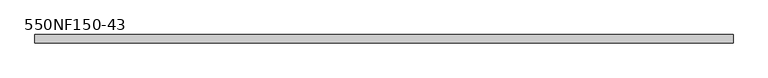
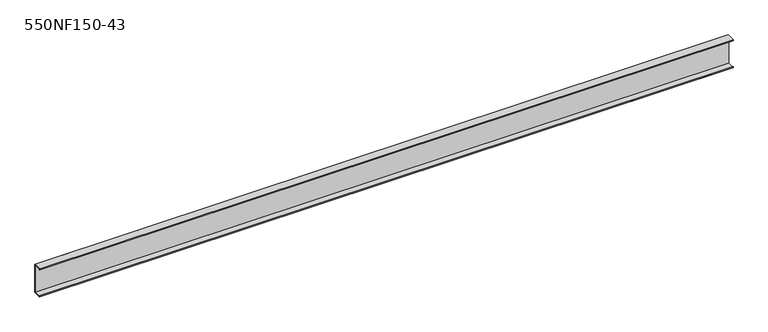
"""IFC4 building model written with IfcOpenShell, lengths in millimetres: beam geometry, BIMSF-SSMA-S : 550NF150-43."""

import ifcopenshell
import ifcopenshell.guid

model = None  # the IFC model being written
_history = None  # IfcOwnerHistory: only IFC2X3 demands one
_inside = {}  # id of a spatial element -> (the spatial element, [elements in it])
_under = {}  # id of a project, library or spatial element -> (it, [spatial elements below it])
_declared = {}  # id of a project -> (the project, [libraries it declares])
_typed = {}  # id of a type object -> (the type object, [elements of that type])
_made_of = {}  # id of a material, layer set ... -> (it, [elements and type objects made of it])


def new_model(schema):
    """Start an empty IFC model of exactly this schema.

    Asked for "IFC4X3", IfcOpenShell would pick the latest addendum, in which some entities
    have other attributes; the version numbers below select the first issue.
    IFC2X3 requires an IfcOwnerHistory on every rooted entity: one is made here for all.
    """
    global model, _history
    if schema == "IFC4X3":
        model = ifcopenshell.file(schema_version=(4, 3, 0, 0))
    else:
        model = ifcopenshell.file(schema=schema)
    _inside.clear()
    _under.clear()
    _declared.clear()
    _typed.clear()
    _made_of.clear()
    _history = None
    if model.schema == "IFC2X3":
        org = make("IfcOrganization", Name="unknown")
        user = make(
            "IfcPersonAndOrganization",
            ThePerson=make("IfcPerson", FamilyName="unknown"),
            TheOrganization=org,
        )
        app = make(
            "IfcApplication",
            ApplicationDeveloper=org,
            Version="unknown",
            ApplicationFullName="unknown",
            ApplicationIdentifier="unknown",
        )
        _history = make(
            "IfcOwnerHistory",
            OwningUser=user,
            OwningApplication=app,
            ChangeAction="ADDED",
            CreationDate=0,
        )
    return model


def make(cls, **values):
    """One entity of the class cls with the attributes given. An attribute that is None is left unset."""
    return model.create_entity(
        cls, **{name: value for name, value in values.items() if value is not None}
    )


def rooted(cls, **values):
    """An entity with a GlobalId (a new one), such as an element, a storey or a relation."""
    return make(cls, GlobalId=ifcopenshell.guid.new(), OwnerHistory=_history, **values)


def si_unit(unit_type, name, prefix=None):
    """IfcSIUnit, for example si_unit("LENGTHUNIT", "METRE", prefix="MILLI")."""
    return make("IfcSIUnit", UnitType=unit_type, Prefix=prefix, Name=name)


def assignment(units):
    """IfcUnitAssignment: the units of a project."""
    return None if units is None else make("IfcUnitAssignment", Units=units)


def point(xyz):
    """IfcCartesianPoint."""
    return None if xyz is None else make("IfcCartesianPoint", Coordinates=xyz)


def direction(xyz):
    """IfcDirection."""
    return None if xyz is None else make("IfcDirection", DirectionRatios=xyz)


def frame(location, z_axis=None, x_axis=None):
    """IfcAxis2Placement3D, a coordinate frame: its origin and axes. An axis left out is left unset."""
    return make(
        "IfcAxis2Placement3D",
        Location=point(location),
        Axis=direction(z_axis),
        RefDirection=direction(x_axis),
    )


def origin():
    """The frame at (0, 0, 0) with its axes left unset."""
    return frame((0.0, 0.0, 0.0))


def place(relative_to, where):
    """IfcLocalPlacement: puts the frame where relative to a parent placement (None: the world)."""
    return make(
        "IfcLocalPlacement", PlacementRelTo=relative_to, RelativePlacement=where
    )


def context(
    kind, dimensions, precision=None, world=None, true_north=None, identifier=None
):
    """IfcGeometricRepresentationContext, for example the 3D "Model" context."""
    return make(
        "IfcGeometricRepresentationContext",
        ContextIdentifier=identifier,
        ContextType=kind,
        CoordinateSpaceDimension=dimensions,
        Precision=precision,
        WorldCoordinateSystem=world,
        TrueNorth=true_north,
    )


def project(units=None, contexts=None):
    """IfcProject with its units and contexts."""
    return rooted(
        "IfcProject",
        Name="project",
        RepresentationContexts=contexts,
        UnitsInContext=assignment(units),
    )


def spatial(cls, under=None, at=None, **own):
    """A site, building, storey or space (cls), placed at a placement, below another one or the project."""
    s = rooted(cls, ObjectPlacement=at, **own)
    if under is not None:
        _under.setdefault(under.id(), (under, []))[1].append(s)
    return s


def polyline(points):
    """IfcPolyline through the points."""
    return make("IfcPolyline", Points=[point(p) for p in points])


def outline(outer, holes=None, kind="AREA"):
    """IfcArbitraryClosedProfileDef: a profile drawn as a closed curve; with holes, ...WithVoids."""
    if holes is None:
        return make("IfcArbitraryClosedProfileDef", ProfileType=kind, OuterCurve=outer)
    return make(
        "IfcArbitraryProfileDefWithVoids",
        ProfileType=kind,
        OuterCurve=outer,
        InnerCurves=holes,
    )


def extrude(swept, where, along, depth):
    """IfcExtrudedAreaSolid: the profile swept, set in the frame where, extruded along a direction by depth."""
    return make(
        "IfcExtrudedAreaSolid",
        SweptArea=swept,
        Position=where,
        ExtrudedDirection=direction(along),
        Depth=depth,
    )


def shape(context_of_items, identifier, shape_type, items):
    """IfcShapeRepresentation: the items that make up one representation, for example the "Body"."""
    return make(
        "IfcShapeRepresentation",
        ContextOfItems=context_of_items,
        RepresentationIdentifier=identifier,
        RepresentationType=shape_type,
        Items=items,
    )


def source(mapping_origin, context_of_items, identifier, shape_type, items):
    """IfcRepresentationMap: a shape defined once, which mapped items show again and again."""
    return make(
        "IfcRepresentationMap",
        MappingOrigin=mapping_origin,
        MappedRepresentation=shape(context_of_items, identifier, shape_type, items),
    )


def transform(
    local_origin,
    x_axis=None,
    y_axis=None,
    z_axis=None,
    scale=None,
    scale2=None,
    scale3=None,
    uniform=True,
):
    """IfcCartesianTransformationOperator3D, or its non-uniform kind. x_axis, y_axis, z_axis: its Axis1, 2, 3."""
    if uniform:
        return make(
            "IfcCartesianTransformationOperator3D",
            Axis1=direction(x_axis),
            Axis2=direction(y_axis),
            LocalOrigin=point(local_origin),
            Scale=scale,
            Axis3=direction(z_axis),
        )
    return make(
        "IfcCartesianTransformationOperator3DnonUniform",
        Axis1=direction(x_axis),
        Axis2=direction(y_axis),
        LocalOrigin=point(local_origin),
        Scale=scale,
        Axis3=direction(z_axis),
        Scale2=scale2,
        Scale3=scale3,
    )


def mapped(mapping_source, mapping_target):
    """IfcMappedItem: shows the shape of a source again, moved by a transform."""
    return make(
        "IfcMappedItem", MappingSource=mapping_source, MappingTarget=mapping_target
    )


def made_of(thing, what):
    """Note that an element or type object is made of a material, layer set ...; save() writes the relation."""
    if what is not None:
        _made_of.setdefault(what.id(), (what, []))[1].append(thing)
    return thing


def element(
    cls,
    number,
    at=None,
    inside=None,
    cuts=None,
    type_object=None,
    material=None,
    context=None,
    identifier="Body",
    shape_type=None,
    held_by="IfcProductDefinitionShape",
    body=None,
    shapes=None,
    **own,
):
    """One element of the class cls, such as IfcWall. Its Tag is "e" and its number.

    at: its placement. inside: the storey or other place that contains it. cuts: it is an
    opening in that element (IfcRelVoidsElement). A single representation is given by context,
    identifier, shape_type and body (its items); several are given by shapes. held_by: the class
    of the entity that holds the representations. save() writes the other relations.
    """
    e = rooted(cls, Tag="e%d" % number, ObjectPlacement=at, **own)
    if body is not None:
        shapes = [shape(context, identifier, shape_type, body)]
    if shapes is not None:
        e.Representation = make(held_by, Representations=shapes)
    if inside is not None:
        _inside.setdefault(inside.id(), (inside, []))[1].append(e)
    if cuts is not None:
        rooted(
            "IfcRelVoidsElement", RelatingBuildingElement=cuts, RelatedOpeningElement=e
        )
    if type_object is not None:
        _typed.setdefault(type_object.id(), (type_object, []))[1].append(e)
    return made_of(e, material)


def aggregate(whole, parts):
    """IfcRelAggregates: a whole, such as a stair, and the parts it consists of."""
    return rooted("IfcRelAggregates", RelatingObject=whole, RelatedObjects=parts)


def save(model, path):
    """Write the relations noted so far, then the file.

    IfcRelAggregates (storeys below a building ...), IfcRelContainedInSpatialStructure (elements
    in a storey), IfcRelDefinesByType, IfcRelAssociatesMaterial and IfcRelDeclares: one each for
    every whole, place, type object, material and project.
    """
    for whole, parts in _under.values():
        aggregate(whole, parts)
    for where, things in _inside.values():
        rooted(
            "IfcRelContainedInSpatialStructure",
            RelatedElements=things,
            RelatingStructure=where,
        )
    for kind, things in _typed.values():
        rooted("IfcRelDefinesByType", RelatedObjects=things, RelatingType=kind)
    for what, things in _made_of.values():
        rooted("IfcRelAssociatesMaterial", RelatedObjects=things, RelatingMaterial=what)
    for by, libraries in _declared.values():
        rooted("IfcRelDeclares", RelatingContext=by, RelatedDefinitions=libraries)
    model.write(path)


def beam_550nf150_43_2fd651c0(model_context):
    return source(origin(), model_context, "Body", "SweptSolid", [
        extrude(outline(polyline([(19.05, 69.85), (19.05, -69.85), (-19.05, -69.85), (-19.05, -65.0748), (-17.9003158, -65.0748), (-17.9003158, -68.7003158), (17.9003158, -68.7003158), (17.9003158, 68.7003158), (-17.9003158, 68.7003158), (-17.9003158, 65.0748), (-19.05, 65.0748), (-19.05, 69.85), (19.05, 69.85)])), frame((-1625.6, 0.0, 0.0), z_axis=(1.0, 0.0, 0.0), x_axis=(0.0, 1.0, 0.0)), (0.0, 0.0, 1.0), 3251.2),
    ])


if __name__ == "__main__":
    model = new_model("IFC4")
    model_context = context("Model", 3, world=origin())
    ifc_project = project(units=[si_unit("LENGTHUNIT", "METRE", prefix="MILLI")], contexts=[model_context])
    site = spatial("IfcSite", under=ifc_project)
    building = spatial("IfcBuilding", under=site)
    placement = place(None, origin())
    beam_550nf150_43_shape = beam_550nf150_43_2fd651c0(model_context)
    element("IfcBeam", 1, ObjectType="BIMSF-SSMA-S : 550NF150-43", at=placement, inside=building, context=model_context, shape_type="MappedRepresentation", body=[
        mapped(beam_550nf150_43_shape, transform((0.0, 0.0, 0.0), x_axis=(1.0, 0.0, 0.0), y_axis=(0.0, 1.0, 0.0), z_axis=(0.0, 0.0, 1.0))),
    ])
    save(model, "model.ifc")
